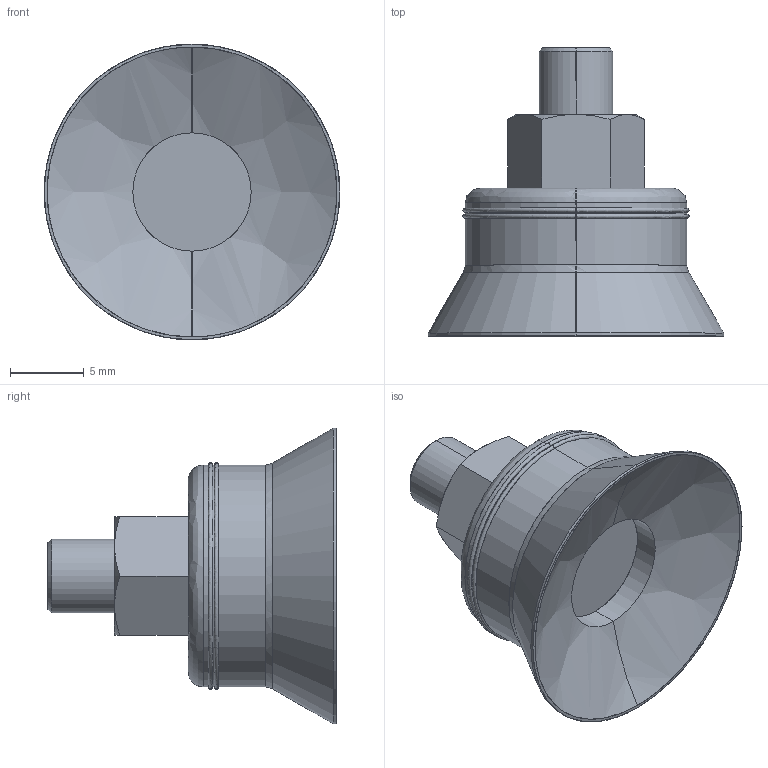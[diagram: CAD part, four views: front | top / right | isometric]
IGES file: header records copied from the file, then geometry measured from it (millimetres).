
Start section: SolidWorks IGES file using analytic representation for surfaces
Global section: file name: C:\Documents and Settings\CAD53\デスクトップ\シュマルツパット　ＳＱＮ　15　20　Ｍ5\183802.IGS,41HSolidWorks 2006 by; native system: SolidWorks Corporation; preprocessor: SolidWorks 2006 by SolidWorks Corporation; author: CAD53; date: 071010.091305; units: millimetre
Bounding box: 20 x 19.5 x 20 mm (x, y, z)
Surface area: 1362.5 mm2 (no closed solid volume)
Topology: 0 solids, 0 shells, 46 faces, 482 edges, 482 vertices
Faces by surface type: revolution 24, bspline 22
